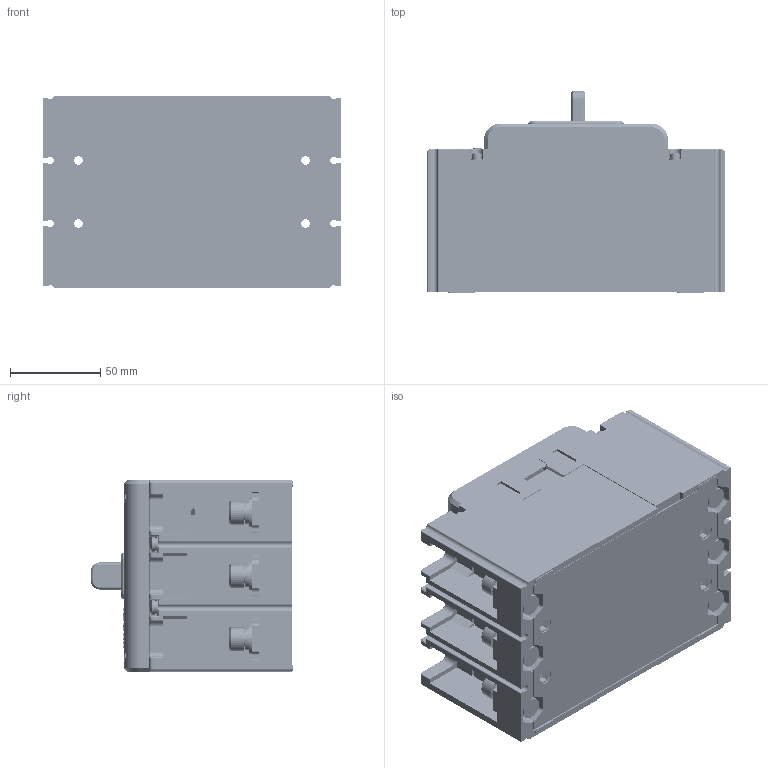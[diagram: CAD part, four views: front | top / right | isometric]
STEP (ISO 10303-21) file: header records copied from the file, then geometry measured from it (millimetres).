
FILE_DESCRIPTION((''),'2;1');
FILE_NAME('2256020200_ASM','2017-11-20T',('yan.shen'),(''),'PRO/ENGINEER BY PARAMETRIC TECHNOLOGY CORPORATION, 2015440','PRO/ENGINEER BY PARAMETRIC TECHNOLOGY CORPORATION, 2015440','');
FILE_SCHEMA(('CONFIG_CONTROL_DESIGN'));
Products named in the file (35): JZ-5DLX_024_270; GB_T809-M3X12; GB_T809-M4X12; 5024027000_ASM; 6760009000_AF0_ASM; 8751002100; 8750029700; 8253057300; 8865077900_AF0; 8865078000_AF0; 5253022400_ASM; MG-5DLX_315_432; GB_T809-M3X8; 5315043200_ASM; 8253003500; 8282018100_AF0; 8315057900; 7010100305R01_GB_T823_M3X10; 7090300201_GB_T93_3; GB_T97_4_3; 5850007700_ASM; 5315043400_ASM; GB_T9074_4-M3X30; 7030100437_GB_T9074_4_M4X30; 8742102700; GB_T70_1-M8X20; 7090200704_GB_T97_1_8; 7090370701K_GB_T93_8; 5850004100_AF0_ASM; 5850004100_AF1_ASM; 5850004100_AF2_ASM; 5850004100_ASM; 8551033100; 8585064000; 2256020200_ASM
Assembly tree (71 placements, depth 4):
  2256020200_ASM
    6760009000_AF0_ASM
      5024027000_ASM
        JZ-5DLX_024_270
        GB_T809-M3X12  x4
        GB_T809-M4X12  x4
    8751002100  x3
    8750029700  x3
    5253022400_ASM
      8253057300
      8865077900_AF0
      8865078000_AF0
    5315043400_ASM
      5315043200_ASM
        MG-5DLX_315_432
        GB_T809-M3X8  x4
      8253003500
      8282018100_AF0
      8315057900
      5850007700_ASM  x4
        7010100305R01_GB_T823_M3X10
        7090300201_GB_T93_3
        GB_T97_4_3
    GB_T9074_4-M3X30  x4
    7030100437_GB_T9074_4_M4X30  x4
    8742102700
    5850004100_AF0_ASM
      GB_T70_1-M8X20
      7090200704_GB_T97_1_8
      7090370701K_GB_T93_8
    5850004100_AF1_ASM
      GB_T70_1-M8X20
      7090200704_GB_T97_1_8
      7090370701K_GB_T93_8
    5850004100_AF2_ASM
      GB_T70_1-M8X20
      7090200704_GB_T97_1_8
      7090370701K_GB_T93_8
    5850004100_ASM  x3
      GB_T70_1-M8X20
      7090200704_GB_T97_1_8
      7090370701K_GB_T93_8
    8551033100  x3
    8585064000  x3
Bounding box: 165 x 112.38 x 107 mm (x, y, z)
Volume: 534131.6 mm3; surface area: 355156.8 mm2
Topology: 71 solids, 113 shells, 5314 faces, 13897 edges, 8918 vertices
Faces by surface type: plane 2780, cylinder 1773, cone 194, extrusion 188, torus 187, bspline 114, sphere 78
Entity records: 148865 total; most frequent: CARTESIAN_POINT 39648, ORIENTED_EDGE 22954, DIRECTION 22207, EDGE_CURVE 11499, VECTOR 7739, LINE 7551, VERTEX_POINT 7397, AXIS2_PLACEMENT_3D 7234
